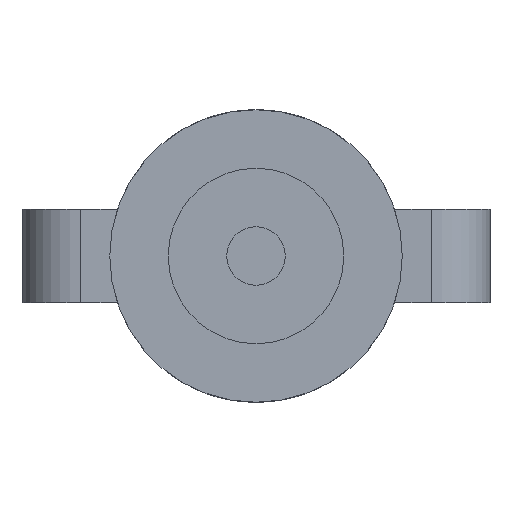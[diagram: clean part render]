
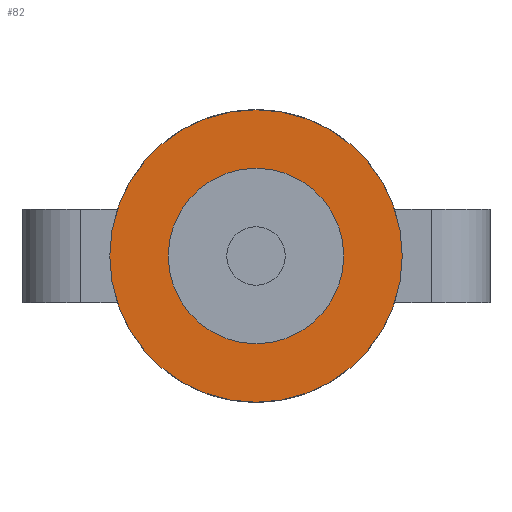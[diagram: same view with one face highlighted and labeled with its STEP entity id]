
A CAD part, left-side view. The second image highlights one B-rep face of the part: STEP entity #82.
In plain terms, the highlighted planar face has unit normal (-1, 0, 0).
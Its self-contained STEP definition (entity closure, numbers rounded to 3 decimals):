
#48 = EDGE_CURVE ( 'NONE', #817, #450, #485, .T. ) ;
#62 = AXIS2_PLACEMENT_3D ( 'NONE', #733, #452, #656 ) ;
#82 = ADVANCED_FACE ( 'NONE', ( #510, #380 ), #793, .F. ) ;
#87 = AXIS2_PLACEMENT_3D ( 'NONE', #183, #800, #876 ) ;
#97 = CARTESIAN_POINT ( 'NONE',  ( -4.764, 0., 0. ) ) ;
#121 = EDGE_LOOP ( 'NONE', ( #732, #775 ) ) ;
#139 = AXIS2_PLACEMENT_3D ( 'NONE', #97, #658, #864 ) ;
#167 = CARTESIAN_POINT ( 'NONE',  ( -4.764, 1.5, 0. ) ) ;
#177 = CARTESIAN_POINT ( 'NONE',  ( -4.764, 0., 0. ) ) ;
#183 = CARTESIAN_POINT ( 'NONE',  ( -4.764, 0., 0. ) ) ;
#184 = CIRCLE ( 'NONE', #139, 2.5 ) ;
#198 = ORIENTED_EDGE ( 'NONE', *, *, #442, .T. ) ;
#254 = CARTESIAN_POINT ( 'NONE',  ( -4.764, 0., -1.5 ) ) ;
#337 = VERTEX_POINT ( 'NONE', #880 ) ;
#380 = FACE_OUTER_BOUND ( 'NONE', #807, .T. ) ;
#422 = EDGE_CURVE ( 'NONE', #736, #337, #184, .T. ) ;
#442 = EDGE_CURVE ( 'NONE', #337, #736, #694, .T. ) ;
#450 = VERTEX_POINT ( 'NONE', #254 ) ;
#452 = DIRECTION ( 'NONE',  ( -1., 0., 0. ) ) ;
#454 = DIRECTION ( 'NONE',  ( -1., 0., 0. ) ) ;
#474 = CARTESIAN_POINT ( 'NONE',  ( -4.764, 0., -2.5 ) ) ;
#479 = EDGE_CURVE ( 'NONE', #450, #817, #620, .T. ) ;
#485 = CIRCLE ( 'NONE', #87, 1.5 ) ;
#510 = FACE_BOUND ( 'NONE', #121, .T. ) ;
#532 = AXIS2_PLACEMENT_3D ( 'NONE', #177, #454, #596 ) ;
#596 = DIRECTION ( 'NONE',  ( 0., 0., 1. ) ) ;
#620 = CIRCLE ( 'NONE', #62, 1.5 ) ;
#621 = CARTESIAN_POINT ( 'NONE',  ( -4.764, 0., 1.5 ) ) ;
#656 = DIRECTION ( 'NONE',  ( 0., 0., 1. ) ) ;
#658 = DIRECTION ( 'NONE',  ( -1., 0., 0. ) ) ;
#694 = CIRCLE ( 'NONE', #532, 2.5 ) ;
#726 = DIRECTION ( 'NONE',  ( 1., 0., 0. ) ) ;
#732 = ORIENTED_EDGE ( 'NONE', *, *, #48, .F. ) ;
#733 = CARTESIAN_POINT ( 'NONE',  ( -4.764, 0., 0. ) ) ;
#736 = VERTEX_POINT ( 'NONE', #474 ) ;
#749 = ORIENTED_EDGE ( 'NONE', *, *, #422, .T. ) ;
#775 = ORIENTED_EDGE ( 'NONE', *, *, #479, .F. ) ;
#793 = PLANE ( 'NONE',  #822 ) ;
#800 = DIRECTION ( 'NONE',  ( -1., 0., 0. ) ) ;
#806 = DIRECTION ( 'NONE',  ( 0., 0., -1. ) ) ;
#807 = EDGE_LOOP ( 'NONE', ( #198, #749 ) ) ;
#817 = VERTEX_POINT ( 'NONE', #621 ) ;
#822 = AXIS2_PLACEMENT_3D ( 'NONE', #167, #726, #806 ) ;
#864 = DIRECTION ( 'NONE',  ( 0., 0., 1. ) ) ;
#876 = DIRECTION ( 'NONE',  ( 0., 0., 1. ) ) ;
#880 = CARTESIAN_POINT ( 'NONE',  ( -4.764, 0., 2.5 ) ) ;
